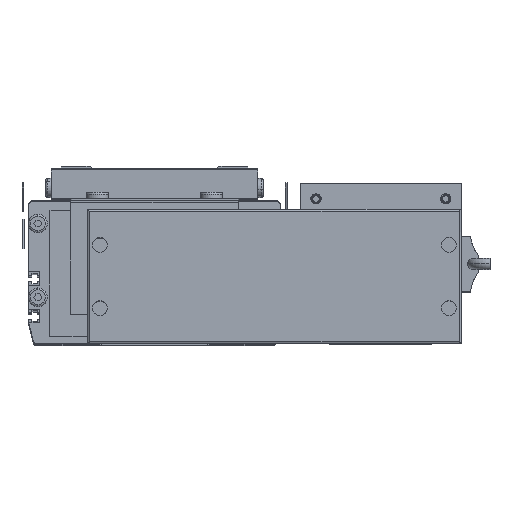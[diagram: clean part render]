
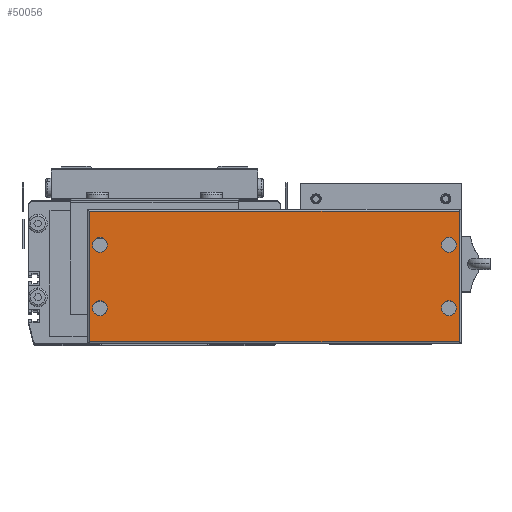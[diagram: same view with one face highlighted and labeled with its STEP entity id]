
A CAD part, top view. The second image highlights one B-rep face of the part: STEP entity #50056.
In plain terms, the highlighted planar face has unit normal (0, 0, 1).
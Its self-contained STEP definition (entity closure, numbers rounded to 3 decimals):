
#2027 = VERTEX_POINT ( 'NONE', #65606 ) ;
#2041 = VERTEX_POINT ( 'NONE', #65633 ) ;
#2043 = VERTEX_POINT ( 'NONE', #65671 ) ;
#2044 = EDGE_CURVE ( 'NONE', #2043, #2041, #65685, .T. ) ;
#2246 = VERTEX_POINT ( 'NONE', #65857 ) ;
#2446 = VERTEX_POINT ( 'NONE', #65886 ) ;
#2523 = EDGE_CURVE ( 'NONE', #2547, #2692, #65967, .T. ) ;
#2529 = VERTEX_POINT ( 'NONE', #65929 ) ;
#2547 = VERTEX_POINT ( 'NONE', #66096 ) ;
#2568 = EDGE_CURVE ( 'NONE', #2027, #2529, #66136, .T. ) ;
#2692 = VERTEX_POINT ( 'NONE', #66346 ) ;
#2717 = EDGE_CURVE ( 'NONE', #2246, #2446, #66315, .T. ) ;
#49977 = EDGE_LOOP ( 'NONE', ( #49985, #50057 ) ) ;
#49985 = ORIENTED_EDGE ( 'NONE', *, *, #50147, .F. ) ;
#50013 = EDGE_CURVE ( 'NONE', #2529, #2027, #57018, .T. ) ;
#50014 = EDGE_CURVE ( 'NONE', #2692, #2547, #56866, .T. ) ;
#50022 = VERTEX_POINT ( 'NONE', #56864 ) ;
#50048 = EDGE_CURVE ( 'NONE', #2446, #2246, #57008, .T. ) ;
#50051 = ORIENTED_EDGE ( 'NONE', *, *, #2568, .F. ) ;
#50056 = ADVANCED_FACE ( 'NONE', ( #56846, #56903, #56848, #56902, #56841 ), #57003, .T. ) ;
#50057 = ORIENTED_EDGE ( 'NONE', *, *, #2044, .F. ) ;
#50092 = VERTEX_POINT ( 'NONE', #57010 ) ;
#50093 = VERTEX_POINT ( 'NONE', #56883 ) ;
#50102 = EDGE_LOOP ( 'NONE', ( #50400, #50051 ) ) ;
#50107 = EDGE_CURVE ( 'NONE', #50092, #50093, #56464, .T. ) ;
#50108 = EDGE_LOOP ( 'NONE', ( #50111, #50370 ) ) ;
#50111 = ORIENTED_EDGE ( 'NONE', *, *, #50014, .F. ) ;
#50112 = ORIENTED_EDGE ( 'NONE', *, *, #50107, .T. ) ;
#50144 = ORIENTED_EDGE ( 'NONE', *, *, #50048, .F. ) ;
#50147 = EDGE_CURVE ( 'NONE', #2041, #2043, #57163, .T. ) ;
#50151 = EDGE_CURVE ( 'NONE', #50022, #50292, #57372, .T. ) ;
#50153 = ORIENTED_EDGE ( 'NONE', *, *, #2717, .F. ) ;
#50167 = EDGE_LOOP ( 'NONE', ( #50112, #50410, #50394, #50413 ) ) ;
#50290 = EDGE_LOOP ( 'NONE', ( #50144, #50153 ) ) ;
#50292 = VERTEX_POINT ( 'NONE', #57126 ) ;
#50370 = ORIENTED_EDGE ( 'NONE', *, *, #2523, .F. ) ;
#50394 = ORIENTED_EDGE ( 'NONE', *, *, #50151, .T. ) ;
#50396 = EDGE_CURVE ( 'NONE', #50292, #50092, #57789, .T. ) ;
#50400 = ORIENTED_EDGE ( 'NONE', *, *, #50013, .F. ) ;
#50410 = ORIENTED_EDGE ( 'NONE', *, *, #50411, .T. ) ;
#50411 = EDGE_CURVE ( 'NONE', #50093, #50022, #57783, .T. ) ;
#50413 = ORIENTED_EDGE ( 'NONE', *, *, #50396, .T. ) ;
#56464 = LINE ( 'NONE', #56468, #56467 ) ;
#56465 = DIRECTION ( 'NONE',  ( 1., 0., 0. ) ) ;
#56467 = VECTOR ( 'NONE', #56465, 1000. ) ;
#56468 = CARTESIAN_POINT ( 'NONE',  ( 164.25, 1., 44. ) ) ;
#56841 = FACE_OUTER_BOUND ( 'NONE', #50167, .T. ) ;
#56843 = DIRECTION ( 'NONE',  ( 1., 0., 0. ) ) ;
#56845 = AXIS2_PLACEMENT_3D ( 'NONE', #56850, #57006, #56843 ) ;
#56846 = FACE_BOUND ( 'NONE', #49977, .T. ) ;
#56848 = FACE_BOUND ( 'NONE', #50102, .T. ) ;
#56850 = CARTESIAN_POINT ( 'NONE',  ( -29.25, 19., 44. ) ) ;
#56852 = AXIS2_PLACEMENT_3D ( 'NONE', #56888, #56886, #56885 ) ;
#56864 = CARTESIAN_POINT ( 'NONE',  ( 163.25, 71., 44. ) ) ;
#56866 = CIRCLE ( 'NONE', #57086, 4. ) ;
#56883 = CARTESIAN_POINT ( 'NONE',  ( 163.25, 1., 44. ) ) ;
#56885 = DIRECTION ( 'NONE',  ( 1., 0., 0. ) ) ;
#56886 = DIRECTION ( 'NONE',  ( 0., 0., 1. ) ) ;
#56888 = CARTESIAN_POINT ( 'NONE',  ( -35.75, 0., 44. ) ) ;
#56902 = FACE_BOUND ( 'NONE', #50108, .T. ) ;
#56903 = FACE_BOUND ( 'NONE', #50290, .T. ) ;
#56917 = CARTESIAN_POINT ( 'NONE',  ( 157.75, 53., 44. ) ) ;
#56962 = CARTESIAN_POINT ( 'NONE',  ( 157.75, 19., 44. ) ) ;
#57003 = PLANE ( 'NONE',  #56852 ) ;
#57006 = DIRECTION ( 'NONE',  ( 0., 0., 1. ) ) ;
#57008 = CIRCLE ( 'NONE', #56845, 4. ) ;
#57010 = CARTESIAN_POINT ( 'NONE',  ( -34.75, 1., 44. ) ) ;
#57018 = CIRCLE ( 'NONE', #57089, 4. ) ;
#57084 = DIRECTION ( 'NONE',  ( 1., 0., 0. ) ) ;
#57085 = DIRECTION ( 'NONE',  ( 0., 0., 1. ) ) ;
#57086 = AXIS2_PLACEMENT_3D ( 'NONE', #56917, #57085, #57084 ) ;
#57087 = DIRECTION ( 'NONE',  ( 1., 0., 0. ) ) ;
#57088 = DIRECTION ( 'NONE',  ( 0., 0., 1. ) ) ;
#57089 = AXIS2_PLACEMENT_3D ( 'NONE', #56962, #57088, #57087 ) ;
#57126 = CARTESIAN_POINT ( 'NONE',  ( -34.75, 71., 44. ) ) ;
#57163 = CIRCLE ( 'NONE', #57481, 4. ) ;
#57184 = CARTESIAN_POINT ( 'NONE',  ( -29.25, 53., 44. ) ) ;
#57287 = DIRECTION ( 'NONE',  ( 1., 0., 0. ) ) ;
#57288 = DIRECTION ( 'NONE',  ( 0., 0., 1. ) ) ;
#57371 = CARTESIAN_POINT ( 'NONE',  ( -35.75, 71., 44. ) ) ;
#57372 = LINE ( 'NONE', #57371, #57431 ) ;
#57429 = DIRECTION ( 'NONE',  ( -1., 0., 0. ) ) ;
#57431 = VECTOR ( 'NONE', #57429, 1000. ) ;
#57481 = AXIS2_PLACEMENT_3D ( 'NONE', #57184, #57288, #57287 ) ;
#57614 = DIRECTION ( 'NONE',  ( 0., 1., 0. ) ) ;
#57615 = VECTOR ( 'NONE', #57614, 1000. ) ;
#57782 = CARTESIAN_POINT ( 'NONE',  ( 163.25, 72., 44. ) ) ;
#57783 = LINE ( 'NONE', #57782, #57615 ) ;
#57786 = DIRECTION ( 'NONE',  ( 0., -1., 0. ) ) ;
#57787 = VECTOR ( 'NONE', #57786, 1000. ) ;
#57788 = CARTESIAN_POINT ( 'NONE',  ( -34.75, 0., 44. ) ) ;
#57789 = LINE ( 'NONE', #57788, #57787 ) ;
#65583 = DIRECTION ( 'NONE',  ( 1., 0., 0. ) ) ;
#65584 = AXIS2_PLACEMENT_3D ( 'NONE', #65684, #65607, #65583 ) ;
#65606 = CARTESIAN_POINT ( 'NONE',  ( 153.75, 19., 44. ) ) ;
#65607 = DIRECTION ( 'NONE',  ( 0., 0., 1. ) ) ;
#65633 = CARTESIAN_POINT ( 'NONE',  ( -25.25, 53., 44. ) ) ;
#65671 = CARTESIAN_POINT ( 'NONE',  ( -33.25, 53., 44. ) ) ;
#65684 = CARTESIAN_POINT ( 'NONE',  ( -29.25, 53., 44. ) ) ;
#65685 = CIRCLE ( 'NONE', #65584, 4. ) ;
#65857 = CARTESIAN_POINT ( 'NONE',  ( -33.25, 19., 44. ) ) ;
#65886 = CARTESIAN_POINT ( 'NONE',  ( -25.25, 19., 44. ) ) ;
#65929 = CARTESIAN_POINT ( 'NONE',  ( 161.75, 19., 44. ) ) ;
#65930 = DIRECTION ( 'NONE',  ( 1., 0., 0. ) ) ;
#65931 = DIRECTION ( 'NONE',  ( 0., 0., 1. ) ) ;
#65963 = AXIS2_PLACEMENT_3D ( 'NONE', #66010, #65931, #65930 ) ;
#65967 = CIRCLE ( 'NONE', #65963, 4. ) ;
#66010 = CARTESIAN_POINT ( 'NONE',  ( 157.75, 53., 44. ) ) ;
#66068 = AXIS2_PLACEMENT_3D ( 'NONE', #66170, #66169, #66190 ) ;
#66096 = CARTESIAN_POINT ( 'NONE',  ( 153.75, 53., 44. ) ) ;
#66136 = CIRCLE ( 'NONE', #66068, 4. ) ;
#66169 = DIRECTION ( 'NONE',  ( 0., 0., 1. ) ) ;
#66170 = CARTESIAN_POINT ( 'NONE',  ( 157.75, 19., 44. ) ) ;
#66190 = DIRECTION ( 'NONE',  ( 1., 0., 0. ) ) ;
#66315 = CIRCLE ( 'NONE', #66316, 4. ) ;
#66316 = AXIS2_PLACEMENT_3D ( 'NONE', #66404, #66403, #66349 ) ;
#66346 = CARTESIAN_POINT ( 'NONE',  ( 161.75, 53., 44. ) ) ;
#66349 = DIRECTION ( 'NONE',  ( 1., 0., 0. ) ) ;
#66403 = DIRECTION ( 'NONE',  ( 0., 0., 1. ) ) ;
#66404 = CARTESIAN_POINT ( 'NONE',  ( -29.25, 19., 44. ) ) ;
